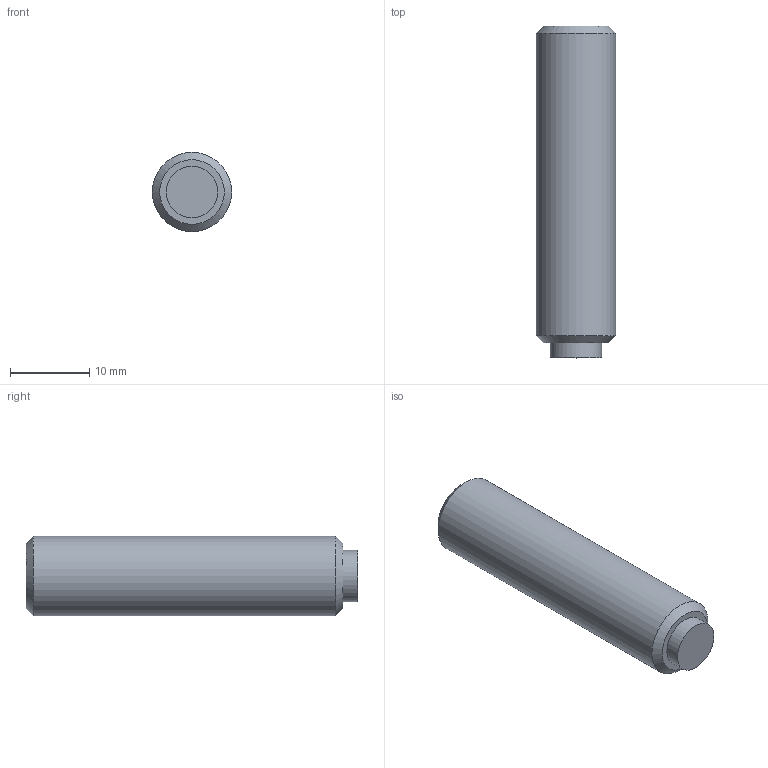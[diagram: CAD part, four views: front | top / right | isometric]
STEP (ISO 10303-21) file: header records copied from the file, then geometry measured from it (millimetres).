
FILE_DESCRIPTION( ( 'STEP AP203' ), '1' );
FILE_NAME( 'C:/Temp/Ganter_Step_05_03_2020/data/3_2/gn913_3/Grub screw GN 913.3-M10-40-KU.stp', '2020-03-13T05:35:40', ( 'License CC BY-ND 4.0' ), ( 'CADENAS' ), ' ', 'PARTsolutions', ' ' );
FILE_SCHEMA( ( 'CONFIG_CONTROL_DESIGN' ) );
Length unit declared in the file: millimetre
Products named in the file (1): _Grub screw GN 913.3-M10-40-KU
Bounding box: 10 x 41.9 x 10 mm (x, y, z)
Volume: 3049.8 mm3; surface area: 1520.4 mm2
Topology: 1 solids, 1 shells, 14 faces, 28 edges, 18 vertices
Faces by surface type: plane 10, cylinder 2, cone 2
Full cylindrical faces by diameter (mm): 6.5 x1, 10 x1
Entity records: 386 total; most frequent: DIRECTION 60, CARTESIAN_POINT 57, ORIENTED_EDGE 48, EDGE_CURVE 24, AXIS2_PLACEMENT_3D 21, EDGE_LOOP 20, VERTEX_POINT 18, LINE 18
